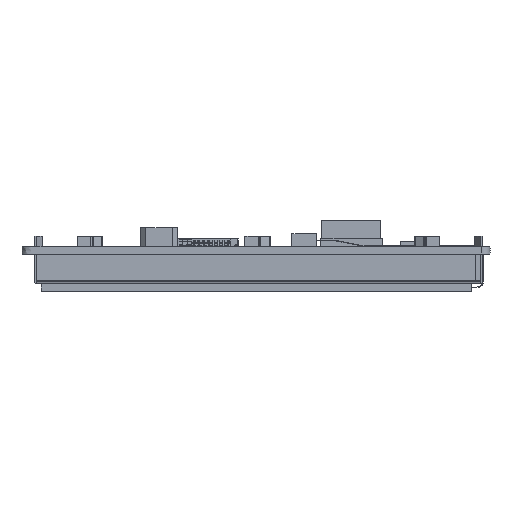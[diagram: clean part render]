
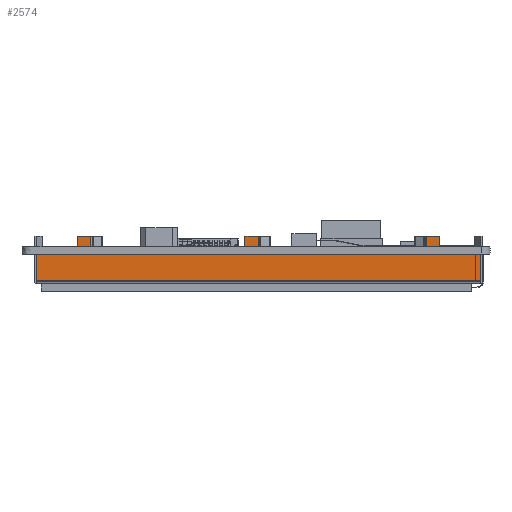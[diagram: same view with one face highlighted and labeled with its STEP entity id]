
A CAD part, left-side view. The second image highlights one B-rep face of the part: STEP entity #2574.
In plain terms, the highlighted planar face has unit normal (-1, 0, 0).
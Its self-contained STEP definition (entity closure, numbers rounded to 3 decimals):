
#2574=ADVANCED_FACE('',(#4913),#3637,.F.);
#3637=PLANE('',#28505);
#4913=FACE_OUTER_BOUND('',#6316,.T.);
#6316=EDGE_LOOP('',(#13523,#13524,#13525,#13526,#13527,#13528,#13529,#13530,
#13531,#13532,#13533,#13534,#13535,#13536,#13537,#13538,#13539,#13540,#13541));
#13523=ORIENTED_EDGE('',*,*,#20259,.T.);
#13524=ORIENTED_EDGE('',*,*,#20270,.T.);
#13525=ORIENTED_EDGE('',*,*,#20271,.F.);
#13526=ORIENTED_EDGE('',*,*,#20272,.T.);
#13527=ORIENTED_EDGE('',*,*,#20273,.F.);
#13528=ORIENTED_EDGE('',*,*,#20257,.T.);
#13529=ORIENTED_EDGE('',*,*,#20274,.T.);
#13530=ORIENTED_EDGE('',*,*,#20275,.F.);
#13531=ORIENTED_EDGE('',*,*,#20276,.F.);
#13532=ORIENTED_EDGE('',*,*,#20277,.T.);
#13533=ORIENTED_EDGE('',*,*,#20265,.T.);
#13534=ORIENTED_EDGE('',*,*,#20278,.T.);
#13535=ORIENTED_EDGE('',*,*,#20279,.F.);
#13536=ORIENTED_EDGE('',*,*,#20280,.F.);
#13537=ORIENTED_EDGE('',*,*,#20281,.T.);
#13538=ORIENTED_EDGE('',*,*,#20269,.T.);
#13539=ORIENTED_EDGE('',*,*,#20282,.F.);
#13540=ORIENTED_EDGE('',*,*,#20283,.F.);
#13541=ORIENTED_EDGE('',*,*,#20284,.T.);
#16694=VERTEX_POINT('',#42577);
#16696=VERTEX_POINT('',#42581);
#16697=VERTEX_POINT('',#42585);
#16699=VERTEX_POINT('',#42588);
#16702=VERTEX_POINT('',#42595);
#16704=VERTEX_POINT('',#42599);
#16706=VERTEX_POINT('',#42604);
#16708=VERTEX_POINT('',#42608);
#16709=VERTEX_POINT('',#42612);
#16710=VERTEX_POINT('',#42614);
#16711=VERTEX_POINT('',#42616);
#16712=VERTEX_POINT('',#42619);
#16713=VERTEX_POINT('',#42621);
#16714=VERTEX_POINT('',#42623);
#16715=VERTEX_POINT('',#42626);
#16716=VERTEX_POINT('',#42628);
#16717=VERTEX_POINT('',#42630);
#16718=VERTEX_POINT('',#42633);
#16719=VERTEX_POINT('',#42635);
#20257=EDGE_CURVE('',#16694,#16696,#23349,.T.);
#20259=EDGE_CURVE('',#16699,#16697,#23351,.T.);
#20265=EDGE_CURVE('',#16702,#16704,#23357,.T.);
#20269=EDGE_CURVE('',#16706,#16708,#23361,.T.);
#20270=EDGE_CURVE('',#16697,#16709,#23362,.T.);
#20271=EDGE_CURVE('',#16710,#16709,#23363,.T.);
#20272=EDGE_CURVE('',#16710,#16711,#23364,.T.);
#20273=EDGE_CURVE('',#16694,#16711,#23365,.T.);
#20274=EDGE_CURVE('',#16696,#16712,#23366,.T.);
#20275=EDGE_CURVE('',#16713,#16712,#23367,.T.);
#20276=EDGE_CURVE('',#16714,#16713,#23368,.T.);
#20277=EDGE_CURVE('',#16714,#16702,#23369,.T.);
#20278=EDGE_CURVE('',#16704,#16715,#23370,.T.);
#20279=EDGE_CURVE('',#16716,#16715,#23371,.T.);
#20280=EDGE_CURVE('',#16717,#16716,#23372,.T.);
#20281=EDGE_CURVE('',#16717,#16706,#23373,.T.);
#20282=EDGE_CURVE('',#16718,#16708,#23374,.T.);
#20283=EDGE_CURVE('',#16719,#16718,#23375,.T.);
#20284=EDGE_CURVE('',#16719,#16699,#23376,.T.);
#23349=LINE('',#42582,#26373);
#23351=LINE('',#42587,#26375);
#23357=LINE('',#42600,#26381);
#23361=LINE('',#42609,#26385);
#23362=LINE('',#42611,#26386);
#23363=LINE('',#42613,#26387);
#23364=LINE('',#42615,#26388);
#23365=LINE('',#42617,#26389);
#23366=LINE('',#42618,#26390);
#23367=LINE('',#42620,#26391);
#23368=LINE('',#42622,#26392);
#23369=LINE('',#42624,#26393);
#23370=LINE('',#42625,#26394);
#23371=LINE('',#42627,#26395);
#23372=LINE('',#42629,#26396);
#23373=LINE('',#42631,#26397);
#23374=LINE('',#42632,#26398);
#23375=LINE('',#42634,#26399);
#23376=LINE('',#42636,#26400);
#26373=VECTOR('',#34608,1.);
#26375=VECTOR('',#34612,1.);
#26381=VECTOR('',#34620,1.);
#26385=VECTOR('',#34626,1.);
#26386=VECTOR('',#34629,1.);
#26387=VECTOR('',#34630,1.);
#26388=VECTOR('',#34631,1.);
#26389=VECTOR('',#34632,1.);
#26390=VECTOR('',#34633,1.);
#26391=VECTOR('',#34634,1.);
#26392=VECTOR('',#34635,1.);
#26393=VECTOR('',#34636,1.);
#26394=VECTOR('',#34637,1.);
#26395=VECTOR('',#34638,1.);
#26396=VECTOR('',#34639,1.);
#26397=VECTOR('',#34640,1.);
#26398=VECTOR('',#34641,1.);
#26399=VECTOR('',#34642,1.);
#26400=VECTOR('',#34643,1.);
#28505=AXIS2_PLACEMENT_3D('',#42637,#34644,#34645);
#34608=DIRECTION('',(0.,1.,0.));
#34612=DIRECTION('',(0.,1.,0.));
#34620=DIRECTION('',(0.,1.,0.));
#34626=DIRECTION('',(0.,1.,0.));
#34629=DIRECTION('',(0.,0.,1.));
#34630=DIRECTION('',(0.,-1.,0.));
#34631=DIRECTION('',(0.,0.,-1.));
#34632=DIRECTION('',(0.,0.,1.));
#34633=DIRECTION('',(0.,0.,1.));
#34634=DIRECTION('',(0.,0.,-1.));
#34635=DIRECTION('',(0.,-1.,0.));
#34636=DIRECTION('',(0.,0.,-1.));
#34637=DIRECTION('',(0.,0.,1.));
#34638=DIRECTION('',(0.,0.,-1.));
#34639=DIRECTION('',(0.,-1.,0.));
#34640=DIRECTION('',(0.,0.,-1.));
#34641=DIRECTION('',(0.,0.,1.));
#34642=DIRECTION('',(0.,1.,0.));
#34643=DIRECTION('',(0.,0.,1.));
#34644=DIRECTION('',(1.,0.,0.));
#34645=DIRECTION('',(0.,-1.,0.));
#42577=CARTESIAN_POINT('',(435.624,-41.014,-1.6));
#42581=CARTESIAN_POINT('',(435.624,-3.188,-1.6));
#42582=CARTESIAN_POINT('',(435.624,-53.245,-1.6));
#42585=CARTESIAN_POINT('',(435.624,-44.038,-1.6));
#42587=CARTESIAN_POINT('',(435.624,-53.245,-1.6));
#42588=CARTESIAN_POINT('',(435.624,-53.245,-1.6));
#42595=CARTESIAN_POINT('',(435.624,-0.18,-1.6));
#42599=CARTESIAN_POINT('',(435.624,34.5,-1.6));
#42600=CARTESIAN_POINT('',(435.624,-53.245,-1.6));
#42604=CARTESIAN_POINT('',(435.624,37.54,-1.6));
#42608=CARTESIAN_POINT('',(435.624,46.775,-1.6));
#42609=CARTESIAN_POINT('',(435.624,-53.245,-1.6));
#42611=CARTESIAN_POINT('',(435.624,-44.038,-1.6));
#42612=CARTESIAN_POINT('',(435.624,-44.038,2.4));
#42613=CARTESIAN_POINT('',(435.624,-41.014,2.4));
#42614=CARTESIAN_POINT('',(435.624,-41.014,2.4));
#42615=CARTESIAN_POINT('',(435.624,-41.014,2.4));
#42616=CARTESIAN_POINT('',(435.624,-41.014,0.));
#42617=CARTESIAN_POINT('',(435.624,-41.014,-1.6));
#42618=CARTESIAN_POINT('',(435.624,-3.188,-1.6));
#42619=CARTESIAN_POINT('',(435.624,-3.188,0.));
#42620=CARTESIAN_POINT('',(435.624,-3.188,2.4));
#42621=CARTESIAN_POINT('',(435.624,-3.188,2.4));
#42622=CARTESIAN_POINT('',(435.624,-0.18,2.4));
#42623=CARTESIAN_POINT('',(435.624,-0.18,2.4));
#42624=CARTESIAN_POINT('',(435.624,-0.18,2.4));
#42625=CARTESIAN_POINT('',(435.624,34.5,-1.6));
#42626=CARTESIAN_POINT('',(435.624,34.5,0.));
#42627=CARTESIAN_POINT('',(435.624,34.5,2.4));
#42628=CARTESIAN_POINT('',(435.624,34.5,2.4));
#42629=CARTESIAN_POINT('',(435.624,37.54,2.4));
#42630=CARTESIAN_POINT('',(435.624,37.54,2.4));
#42631=CARTESIAN_POINT('',(435.624,37.54,2.4));
#42632=CARTESIAN_POINT('',(435.624,46.775,-7.9));
#42633=CARTESIAN_POINT('',(435.624,46.775,-7.9));
#42634=CARTESIAN_POINT('',(435.624,-53.245,-7.9));
#42635=CARTESIAN_POINT('',(435.624,-53.245,-7.9));
#42636=CARTESIAN_POINT('',(435.624,-53.245,-7.9));
#42637=CARTESIAN_POINT('',(435.624,-53.245,-7.9));
